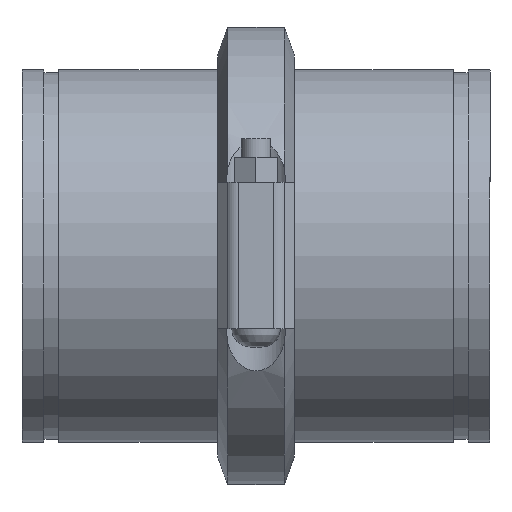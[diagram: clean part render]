
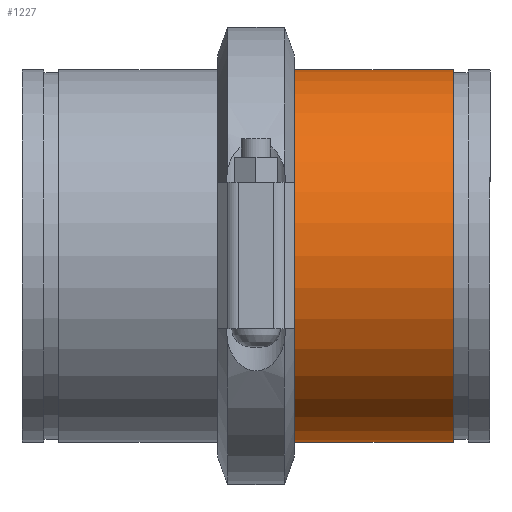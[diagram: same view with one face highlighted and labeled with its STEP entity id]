
A CAD part, top view. The second image highlights one B-rep face of the part: STEP entity #1227.
In plain terms, the highlighted cylindrical face has radius 161.925 mm (diameter 323.85 mm), a full revolution.
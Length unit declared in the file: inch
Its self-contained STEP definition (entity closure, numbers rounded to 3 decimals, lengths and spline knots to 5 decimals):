
#60=LINE('',#1914,#141);
#141=VECTOR('',#1561,6.375);
#222=CYLINDRICAL_SURFACE('',#1386,6.375);
#267=FACE_OUTER_BOUND('',#340,.T.);
#340=EDGE_LOOP('',(#805,#806,#807,#808,#809,#810));
#430=CIRCLE('',#1384,6.375);
#431=CIRCLE('',#1385,6.375);
#432=CIRCLE('',#1387,6.375);
#433=CIRCLE('',#1388,6.375);
#498=VERTEX_POINT('',#1905);
#499=VERTEX_POINT('',#1906);
#500=VERTEX_POINT('',#1910);
#501=VERTEX_POINT('',#1911);
#619=EDGE_CURVE('',#498,#499,#430,.T.);
#620=EDGE_CURVE('',#499,#498,#431,.T.);
#621=EDGE_CURVE('',#500,#501,#432,.T.);
#622=EDGE_CURVE('',#501,#500,#433,.T.);
#623=EDGE_CURVE('',#501,#499,#60,.T.);
#805=ORIENTED_EDGE('',*,*,#621,.F.);
#806=ORIENTED_EDGE('',*,*,#622,.F.);
#807=ORIENTED_EDGE('',*,*,#623,.T.);
#808=ORIENTED_EDGE('',*,*,#620,.T.);
#809=ORIENTED_EDGE('',*,*,#619,.T.);
#810=ORIENTED_EDGE('',*,*,#623,.F.);
#1227=ADVANCED_FACE('',(#267),#222,.T.);
#1384=AXIS2_PLACEMENT_3D('',#1907,#1551,#1552);
#1385=AXIS2_PLACEMENT_3D('',#1908,#1553,#1554);
#1386=AXIS2_PLACEMENT_3D('',#1909,#1555,#1556);
#1387=AXIS2_PLACEMENT_3D('',#1912,#1557,#1558);
#1388=AXIS2_PLACEMENT_3D('',#1913,#1559,#1560);
#1551=DIRECTION('center_axis',(-1.,0.,0.));
#1552=DIRECTION('ref_axis',(0.,0.,1.));
#1553=DIRECTION('center_axis',(-1.,0.,0.));
#1554=DIRECTION('ref_axis',(0.,0.,1.));
#1555=DIRECTION('center_axis',(-1.,0.,0.));
#1556=DIRECTION('ref_axis',(0.,1.,0.));
#1557=DIRECTION('center_axis',(-1.,0.,0.));
#1558=DIRECTION('ref_axis',(0.,0.,1.));
#1559=DIRECTION('center_axis',(-1.,0.,0.));
#1560=DIRECTION('ref_axis',(0.,0.,1.));
#1561=DIRECTION('',(1.,0.,0.));
#1905=CARTESIAN_POINT('',(2.75,6.375,0.));
#1906=CARTESIAN_POINT('',(2.75,-6.375,0.));
#1907=CARTESIAN_POINT('Origin',(2.75,0.,0.));
#1908=CARTESIAN_POINT('Origin',(2.75,0.,0.));
#1909=CARTESIAN_POINT('Origin',(0.,0.,
0.));
#1910=CARTESIAN_POINT('',(-2.75,6.375,0.));
#1911=CARTESIAN_POINT('',(-2.75,-6.375,0.));
#1912=CARTESIAN_POINT('Origin',(-2.75,0.,0.));
#1913=CARTESIAN_POINT('Origin',(-2.75,0.,0.));
#1914=CARTESIAN_POINT('',(0.,-6.375,0.));
